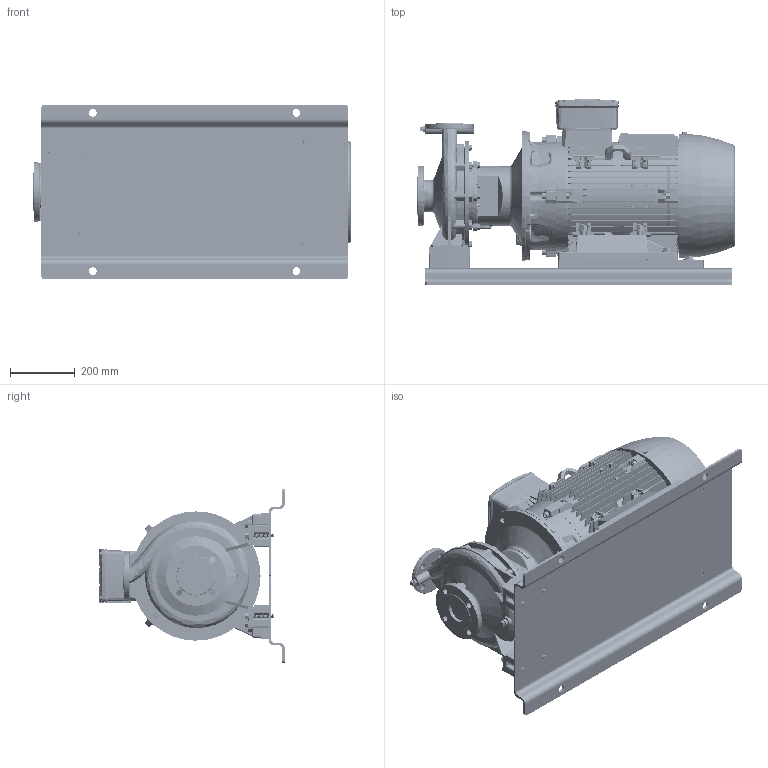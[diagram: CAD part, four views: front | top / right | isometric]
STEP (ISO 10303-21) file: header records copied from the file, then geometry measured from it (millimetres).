
FILE_DESCRIPTION (( 'STEP AP214' ), '1' );
FILE_NAME ('GSD2 40-250_30.0_(200ML)_W21_BP.STEP', '2024-04-08T23:52:54', ( '' ), ( '' ), 'SwSTEP 2.0', 'SolidWorks 2019', '' );
FILE_SCHEMA (( 'AUTOMOTIVE_DESIGN' ));
Length unit declared in the file: millimetre
Products named in the file (19): Parametric bolt and washer_SFT-A359B; 200M_L ALIE3_W21T_B35; N6S2 GSDA-624 F1-1832937-00; Parametric bolt_SFT-A359B; Parametric Flat Washer_M12; Parametric Nut_M12; 40-250-200M_L; Parametric Stud Bolt_SFSK-AB299; Parametric bolt and washer_SFT-A355B; CGS11-5311_2_3_4_5_CGS11-5311; Parametric Flat Washer_M16; CGS11-5311_2_3_4_5_CGS11-5312; 80x25 - CGSDA-5271; GSD2  40-250_30.0_(200ML)_W21_BP; Parametric bolt_SFT-A353B
Assembly tree (39 placements, depth 3):
  GSD2  40-250_30.0_(200ML)_W21_BP
    40-250-200M_L
    CGS11-5311_2_3_4_5_CGS11-5311  x2
    CGS11-5311_2_3_4_5_CGS11-5312  x2
    N6S2 GSDA-624 F1-1832937-00
    80x25 - CGSDA-5271  x2
    Parametric Stud Bolt_SFSK-AB299  x4
    Parametric Flat Washer_M12  x4
    Parametric Nut_M12  x4
    Parametric bolt and washer_SFT-A355B
      Parametric bolt_SFT-A353B
      Parametric Flat Washer_M16
    Parametric bolt and washer_SFT-A355B
      Parametric bolt_SFT-A353B
      Parametric Flat Washer_M16
    200M_L ALIE3_W21T_B35
    Parametric bolt and washer_SFT-A359B
      Parametric bolt_SFT-A359B
      Parametric Flat Washer_M16
    Parametric bolt and washer_SFT-A359B
      Parametric bolt_SFT-A359B
      Parametric Flat Washer_M16
    Parametric bolt and washer_SFT-A359B
      Parametric bolt_SFT-A359B
      Parametric Flat Washer_M16
    Parametric bolt and washer_SFT-A359B
      Parametric bolt_SFT-A359B
      Parametric Flat Washer_M16
Bounding box: 983.8 x 574.5 x 540 mm (x, y, z)
Volume: 85058130.9 mm3; surface area: 5521776.1 mm2
Topology: 73 solids, 83 shells, 8068 faces, 20979 edges, 13507 vertices
Faces by surface type: plane 4448, cylinder 1743, bspline 983, cone 662, torus 228, sphere 4
Entity records: 303941 total; most frequent: CARTESIAN_POINT 120744, ORIENTED_EDGE 37696, DIRECTION 30803, EDGE_CURVE 18848, VERTEX_POINT 12195, LINE 11379, VECTOR 11379, AXIS2_PLACEMENT_3D 9712
